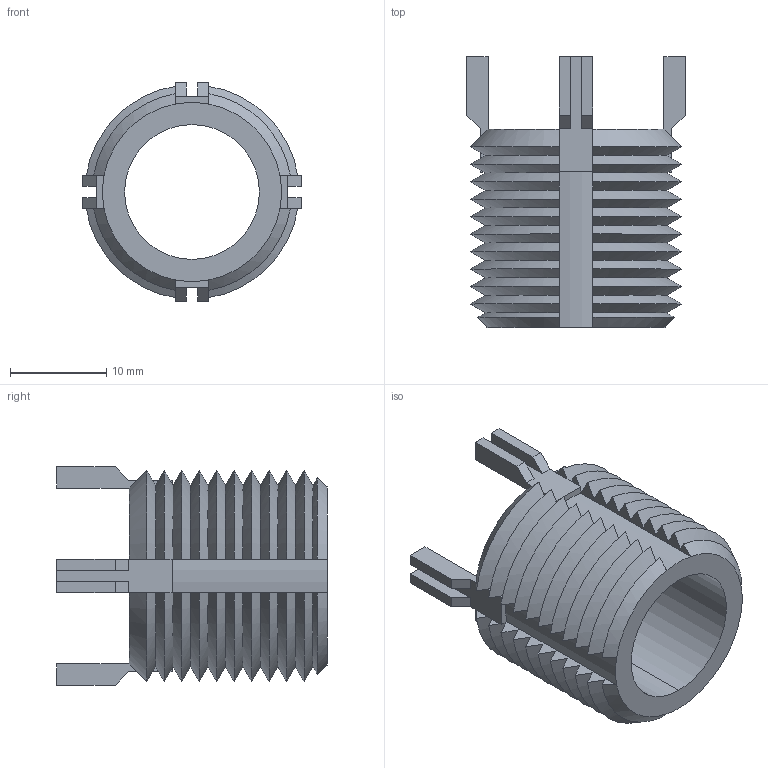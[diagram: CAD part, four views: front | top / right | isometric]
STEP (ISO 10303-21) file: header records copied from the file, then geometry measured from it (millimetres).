
FILE_DESCRIPTION (( 'STEP AP203' ), '1' );
FILE_NAME ('TR1535.66248.step', '2023-05-02T14:00:06', ( '' ), ( '' ), 'SwSTEP 2.0', 'SolidWorks 2019', '' );
FILE_SCHEMA (( 'CONFIG_CONTROL_DESIGN' ));
Length unit declared in the file: millimetre
Products named in the file (1): TR1535.66248
Bounding box: 22.66 x 28.13 x 22.66 mm (x, y, z)
Volume: 3610.4 mm3; surface area: 4020.7 mm2
Topology: 1 solids, 1 shells, 184 faces, 490 edges, 308 vertices
Faces by surface type: plane 90, cone 88, cylinder 6
Entity records: 5963 total; most frequent: CARTESIAN_POINT 1667, ORIENTED_EDGE 980, DIRECTION 748, EDGE_CURVE 490, VERTEX_POINT 308, AXIS2_PLACEMENT_3D 289, B_SPLINE_CURVE_WITH_KNOTS 216, EDGE_LOOP 186
